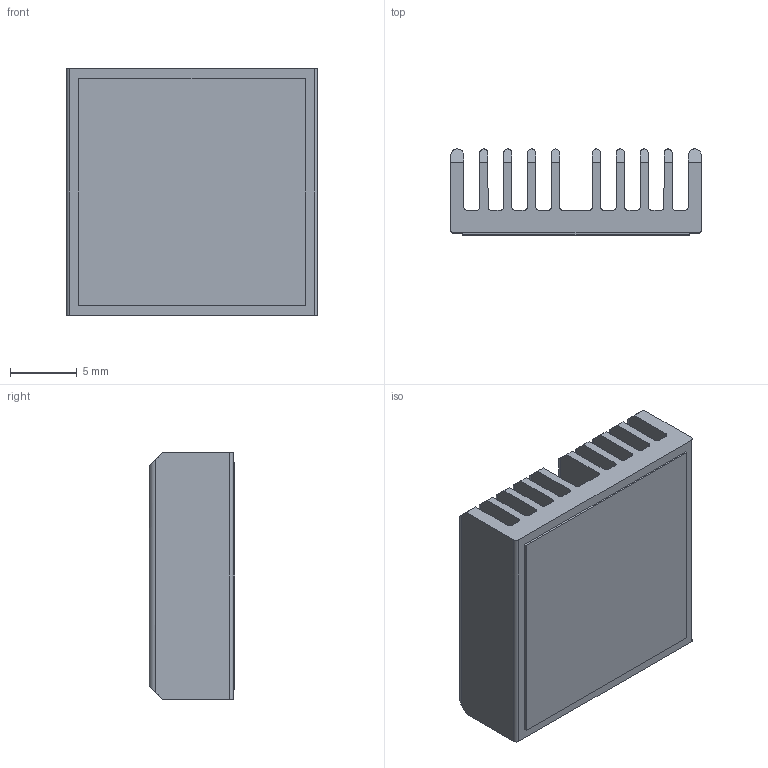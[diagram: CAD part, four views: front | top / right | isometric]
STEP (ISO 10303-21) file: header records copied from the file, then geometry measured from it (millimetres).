
FILE_DESCRIPTION (( 'STEP AP214' ), '1' );
FILE_NAME ('INL19001-6-1.7.STEP', '2023-02-20T23:50:28', ( '' ), ( '' ), 'SwSTEP 2.0', 'SolidWorks 2020', '' );
FILE_SCHEMA (( 'AUTOMOTIVE_DESIGN' ));
Length unit declared in the file: millimetre
Products named in the file (1): INL19001-6-1.7
Bounding box: 18.8 x 6.43 x 18.5 mm (x, y, z)
Volume: 1204.6 mm3; surface area: 3053.9 mm2
Topology: 2 solids, 2 shells, 88 faces, 252 edges, 168 vertices
Faces by surface type: plane 58, cylinder 30
Entity records: 3867 total; most frequent: CARTESIAN_POINT 569, ORIENTED_EDGE 504, DIRECTION 450, EDGE_CURVE 252, VECTOR 192, LINE 192, VERTEX_POINT 168, AXIS2_PLACEMENT_3D 129
